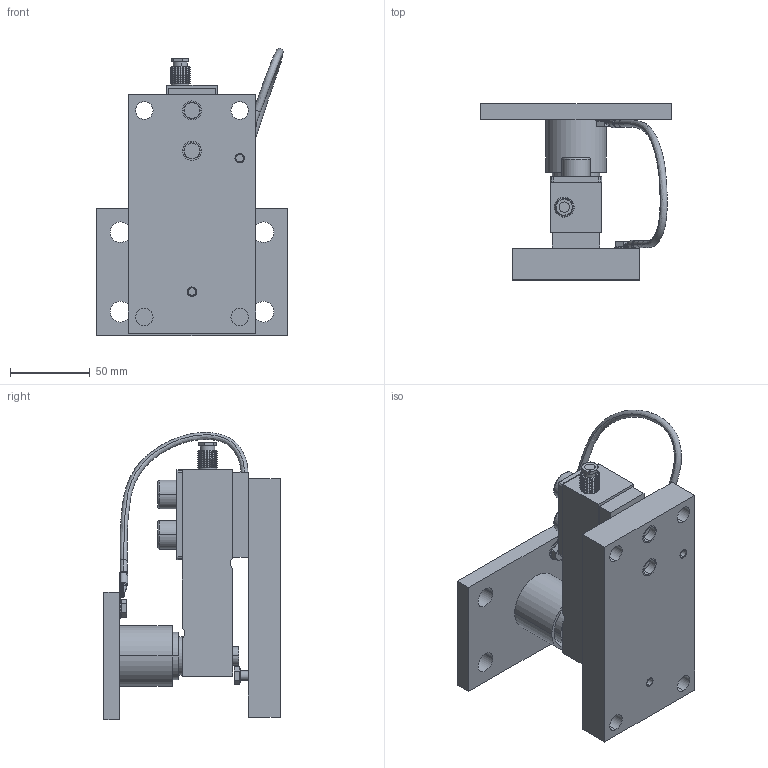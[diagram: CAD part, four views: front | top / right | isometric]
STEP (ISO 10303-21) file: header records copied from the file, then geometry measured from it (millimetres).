
FILE_DESCRIPTION((''),'1');
FILE_NAME('LMLAS_2000_kg_zinc-plated.step','2021-09-27T14:23:00',(''),(''),'','','');
FILE_SCHEMA(('AUTOMOTIVE_DESIGN { 1 0 10303 214 1 1 1 1 }'));
Products named in the file (23): LMLAS part 01; LMLAS part 03; LMLAS part 05; LMLAS cable 01; LMLAS part 06; LMLAS part 07; LMLAS cable 02; LMLAS 2000_kg_zinc-plated; LMLAS part 08; LMLAS part 09; LMLAS part 11; LMLAS part 12; LMLAS screw 01; LMLAS screw 02; LMLAS part 13; LMLAS screw 03; LMLAS screw 04; LMLAS plate 01; LMLAS load cell 01; LMLAS part 14; LMLAS screw 05; LMLAS part 15
Assembly tree (27 placements, depth 4):
  LMLAS 2000_kg_zinc-plated
    LMLAS part 06
      LMLAS part 01
        LMLAS part 03
        LMLAS part 05
        LMLAS cable 01
      LMLAS part 07
        LMLAS part 03
        LMLAS part 05
        LMLAS cable 01
      LMLAS cable 02
    LMLAS part 12
      LMLAS part 08
        LMLAS part 09
        LMLAS part 11
    LMLAS 2000_kg_zinc-plated
    LMLAS screw 01
    LMLAS screw 02  x2
    LMLAS part 13
    LMLAS screw 03  x2
    LMLAS screw 04
    LMLAS plate 01
    LMLAS load cell 01
    LMLAS part 14
    LMLAS screw 05
    LMLAS part 15
Bounding box: 120 x 111 x 180.62 mm (x, y, z)
Volume: 516461.9 mm3; surface area: 133748.3 mm2
Topology: 22 solids, 29 shells, 703 faces, 1691 edges, 1042 vertices
Faces by surface type: cylinder 224, plane 209, cone 136, bspline 74, torus 60
Entity records: 22090 total; most frequent: CARTESIAN_POINT 9501, DIRECTION 2655, ORIENTED_EDGE 2354, EDGE_CURVE 1191, AXIS2_PLACEMENT_3D 1089, VERTEX_POINT 739, CIRCLE 583, EDGE_LOOP 578
